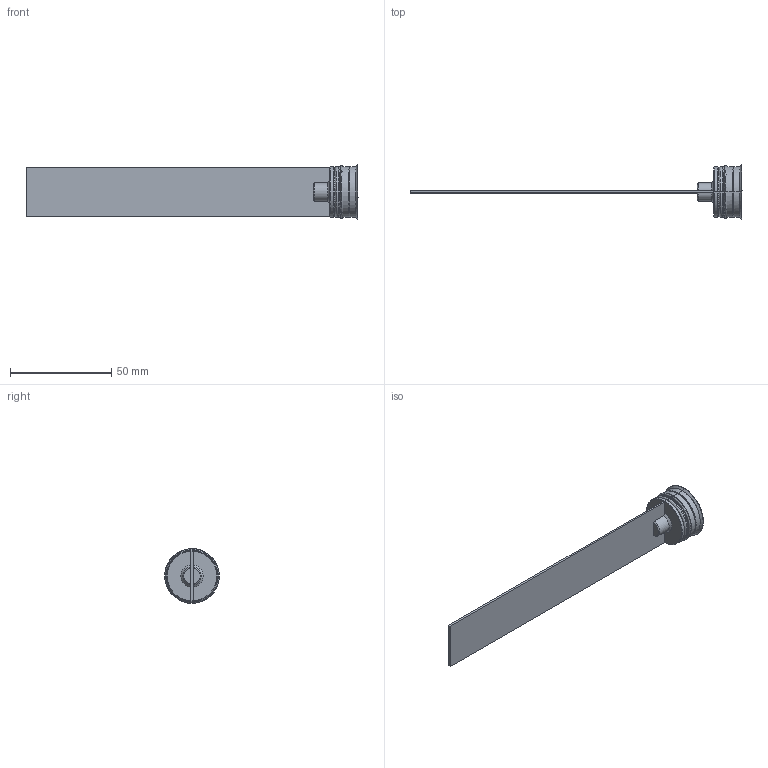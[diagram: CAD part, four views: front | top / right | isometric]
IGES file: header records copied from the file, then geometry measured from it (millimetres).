
Start section: START RECORD GO HERE.
Global section: file name: RL-25Fx150P (lama 24.5mm).igs; native system: DASSAULT SYSTEMES CATIA V5 R20 - www.3ds.com; preprocessor: CATIA Version 5 Release 20 ; author: Utente; organization: NB04-ASUS; date: 20210303.200537; units: millimetre
Bounding box: 164 x 27 x 27 mm (x, y, z)
Surface area: 10672.5 mm2 (no closed solid volume)
Topology: 0 solids, 0 shells, 74 faces, 416 edges, 416 vertices
Faces by surface type: revolution 46, plane 28
